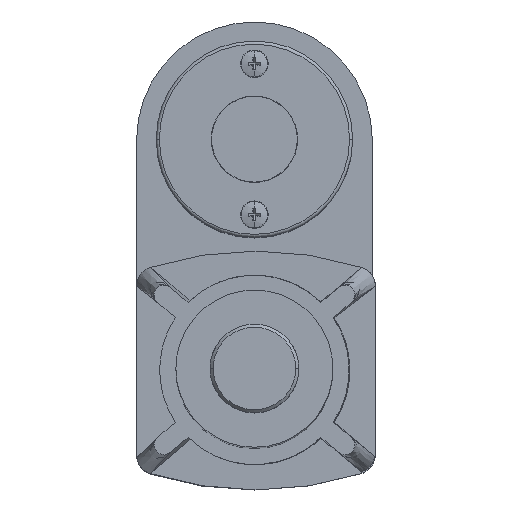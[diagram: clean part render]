
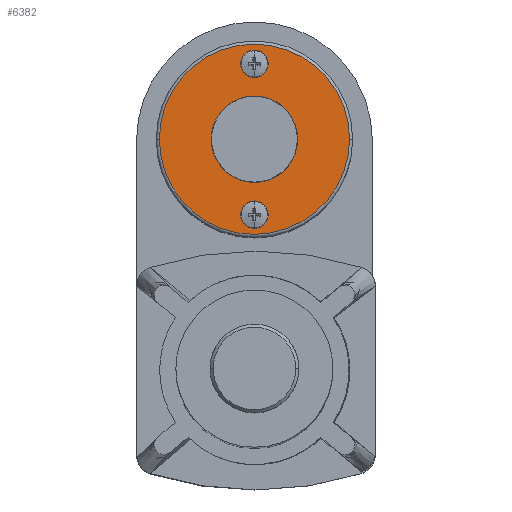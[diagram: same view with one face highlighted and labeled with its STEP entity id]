
A CAD part, top view. The second image highlights one B-rep face of the part: STEP entity #6382.
In plain terms, the highlighted planar face has unit normal (0, 0, 1).
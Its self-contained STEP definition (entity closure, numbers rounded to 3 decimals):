
#132 = CARTESIAN_POINT ( 'NONE',  ( 69.358, -31.638, 406.098 ) ) ;
#363 = CIRCLE ( 'NONE', #7448, 2.54 ) ;
#452 = CARTESIAN_POINT ( 'NONE',  ( 38.608, -7.238, 406.098 ) ) ;
#577 = CARTESIAN_POINT ( 'NONE',  ( 36.068, -7.238, 406.098 ) ) ;
#644 = ORIENTED_EDGE ( 'NONE', *, *, #4833, .F. ) ;
#888 = EDGE_CURVE ( 'NONE', #6703, #6501, #2855, .T. ) ;
#1135 = ORIENTED_EDGE ( 'NONE', *, *, #7903, .T. ) ;
#1154 = AXIS2_PLACEMENT_3D ( 'NONE', #5369, #6164, #6842 ) ;
#1175 = CARTESIAN_POINT ( 'NONE',  ( 38.608, -56.038, 406.098 ) ) ;
#1310 = DIRECTION ( 'NONE',  ( -1., 0., 0. ) ) ;
#1333 = CARTESIAN_POINT ( 'NONE',  ( 36.068, -56.038, 406.098 ) ) ;
#1335 = ORIENTED_EDGE ( 'NONE', *, *, #9690, .F. ) ;
#2761 = AXIS2_PLACEMENT_3D ( 'NONE', #1175, #6946, #1310 ) ;
#2835 = EDGE_LOOP ( 'NONE', ( #1135, #6107 ) ) ;
#2850 = AXIS2_PLACEMENT_3D ( 'NONE', #7727, #6129, #7769 ) ;
#2855 = CIRCLE ( 'NONE', #2850, 2.54 ) ;
#2887 = DIRECTION ( 'NONE',  ( -1., 0., 0. ) ) ;
#3280 = AXIS2_PLACEMENT_3D ( 'NONE', #4519, #7043, #6165 ) ;
#3888 = VERTEX_POINT ( 'NONE', #10399 ) ;
#4378 = ORIENTED_EDGE ( 'NONE', *, *, #4813, .F. ) ;
#4413 = CARTESIAN_POINT ( 'NONE',  ( 38.608, -31.638, 406.098 ) ) ;
#4455 = DIRECTION ( 'NONE',  ( 0., 0., 1. ) ) ;
#4519 = CARTESIAN_POINT ( 'NONE',  ( 38.608, -31.638, 406.098 ) ) ;
#4658 = EDGE_CURVE ( 'NONE', #6613, #5839, #4700, .T. ) ;
#4700 = CIRCLE ( 'NONE', #8088, 30.75 ) ;
#4780 = DIRECTION ( 'NONE',  ( 0., 0., 1. ) ) ;
#4813 = EDGE_CURVE ( 'NONE', #6473, #3888, #9692, .T. ) ;
#4825 = AXIS2_PLACEMENT_3D ( 'NONE', #4413, #4455, #2887 ) ;
#4833 = EDGE_CURVE ( 'NONE', #3888, #6473, #10463, .T. ) ;
#5174 = ORIENTED_EDGE ( 'NONE', *, *, #888, .F. ) ;
#5312 = FACE_BOUND ( 'NONE', #9526, .T. ) ;
#5369 = CARTESIAN_POINT ( 'NONE',  ( 38.608, -56.038, 406.098 ) ) ;
#5568 = FACE_OUTER_BOUND ( 'NONE', #2835, .T. ) ;
#5839 = VERTEX_POINT ( 'NONE', #10333 ) ;
#5915 = CIRCLE ( 'NONE', #3280, 30.75 ) ;
#6107 = ORIENTED_EDGE ( 'NONE', *, *, #4658, .T. ) ;
#6129 = DIRECTION ( 'NONE',  ( 0., 0., 1. ) ) ;
#6135 = DIRECTION ( 'NONE',  ( -1., 0., 0. ) ) ;
#6164 = DIRECTION ( 'NONE',  ( 0., 0., 1. ) ) ;
#6165 = DIRECTION ( 'NONE',  ( -1., 0., 0. ) ) ;
#6382 = ADVANCED_FACE ( 'NONE', ( #8261, #5312, #5568 ), #9340, .T. ) ;
#6463 = DIRECTION ( 'NONE',  ( -1., 0., 0. ) ) ;
#6473 = VERTEX_POINT ( 'NONE', #1333 ) ;
#6501 = VERTEX_POINT ( 'NONE', #577 ) ;
#6613 = VERTEX_POINT ( 'NONE', #132 ) ;
#6703 = VERTEX_POINT ( 'NONE', #6760 ) ;
#6760 = CARTESIAN_POINT ( 'NONE',  ( 41.148, -7.238, 406.098 ) ) ;
#6842 = DIRECTION ( 'NONE',  ( -1., 0., 0. ) ) ;
#6946 = DIRECTION ( 'NONE',  ( 0., 0., 1. ) ) ;
#7022 = DIRECTION ( 'NONE',  ( 0., 0., 1. ) ) ;
#7043 = DIRECTION ( 'NONE',  ( 0., 0., 1. ) ) ;
#7250 = CARTESIAN_POINT ( 'NONE',  ( 38.608, -31.638, 406.098 ) ) ;
#7448 = AXIS2_PLACEMENT_3D ( 'NONE', #452, #7022, #6135 ) ;
#7727 = CARTESIAN_POINT ( 'NONE',  ( 38.608, -7.238, 406.098 ) ) ;
#7769 = DIRECTION ( 'NONE',  ( -1., 0., 0. ) ) ;
#7903 = EDGE_CURVE ( 'NONE', #5839, #6613, #5915, .T. ) ;
#8088 = AXIS2_PLACEMENT_3D ( 'NONE', #7250, #4780, #6463 ) ;
#8261 = FACE_BOUND ( 'NONE', #8386, .T. ) ;
#8386 = EDGE_LOOP ( 'NONE', ( #4378, #644 ) ) ;
#9340 = PLANE ( 'NONE',  #4825 ) ;
#9526 = EDGE_LOOP ( 'NONE', ( #1335, #5174 ) ) ;
#9690 = EDGE_CURVE ( 'NONE', #6501, #6703, #363, .T. ) ;
#9692 = CIRCLE ( 'NONE', #2761, 2.54 ) ;
#10333 = CARTESIAN_POINT ( 'NONE',  ( 7.858, -31.638, 406.098 ) ) ;
#10399 = CARTESIAN_POINT ( 'NONE',  ( 41.148, -56.038, 406.098 ) ) ;
#10463 = CIRCLE ( 'NONE', #1154, 2.54 ) ;
